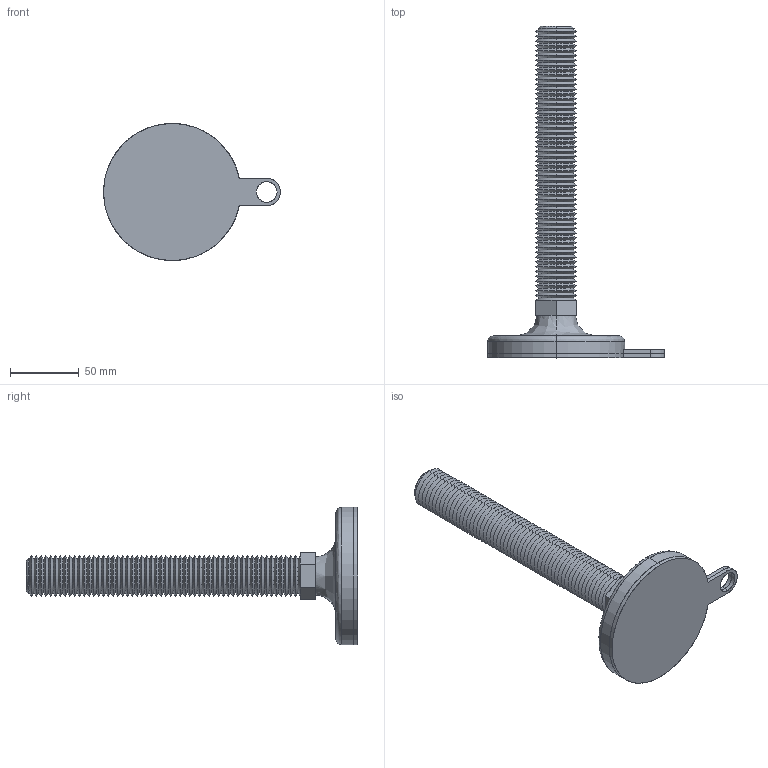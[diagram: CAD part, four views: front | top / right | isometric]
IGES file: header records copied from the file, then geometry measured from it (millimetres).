
Start section: SolidWorks IGES file using analytic representation for surfaces
Global section: file name: C:\Users\liam_\OneDrive\Documents\WORK\Work for WixRoyd\Job Files\J-00026 - Matt Davis CAD - 20191124\04. CAD Drawings\Wixroyd20191124\34704_v2\34704_v2_20191128_IGES\34704.W3002.igs; native system: SolidWorks 2017; preprocessor: SolidWorks 2017; author: liam_; date: 191128.203130; units: millimetre
Bounding box: 129 x 242 x 100 mm (x, y, z)
Surface area: 73773.4 mm2 (no closed solid volume)
Topology: 0 solids, 0 shells, 268 faces, 1722 edges, 1722 vertices
Faces by surface type: revolution 241, bspline 27
